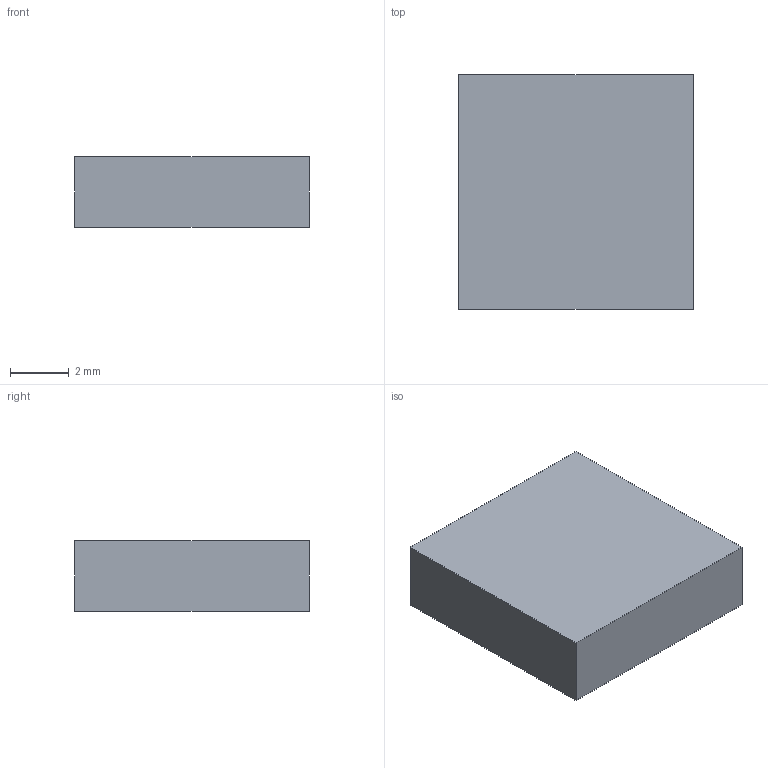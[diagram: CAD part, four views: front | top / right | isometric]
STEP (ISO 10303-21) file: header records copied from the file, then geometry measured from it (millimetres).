
FILE_DESCRIPTION(('Open CASCADE Model'),'2;1');
FILE_NAME('Open CASCADE Shape Model','2026-10-17T17:22:12',('Author'),( 'Open CASCADE'),'Open CASCADE STEP processor 7.9','Open CASCADE 7.9' ,'Unknown');
FILE_SCHEMA(('AUTOMOTIVE_DESIGN { 1 0 10303 214 1 1 1 1 }'));
Length unit declared in the file: millimetre
Products named in the file (1): Open CASCADE STEP translator 7.9 7
Bounding box: 8 x 8 x 2.4 mm (x, y, z)
Volume: 153.6 mm3; surface area: 204.8 mm2
Topology: 1 solids, 1 shells, 6 faces, 12 edges, 8 vertices
Faces by surface type: plane 6
Entity records: 322 total; most frequent: CARTESIAN_POINT 51, DIRECTION 50, LINE 36, VECTOR 36, ORIENTED_EDGE 24, PCURVE 24, DEFINITIONAL_REPRESENTATION 24, EDGE_CURVE 12
